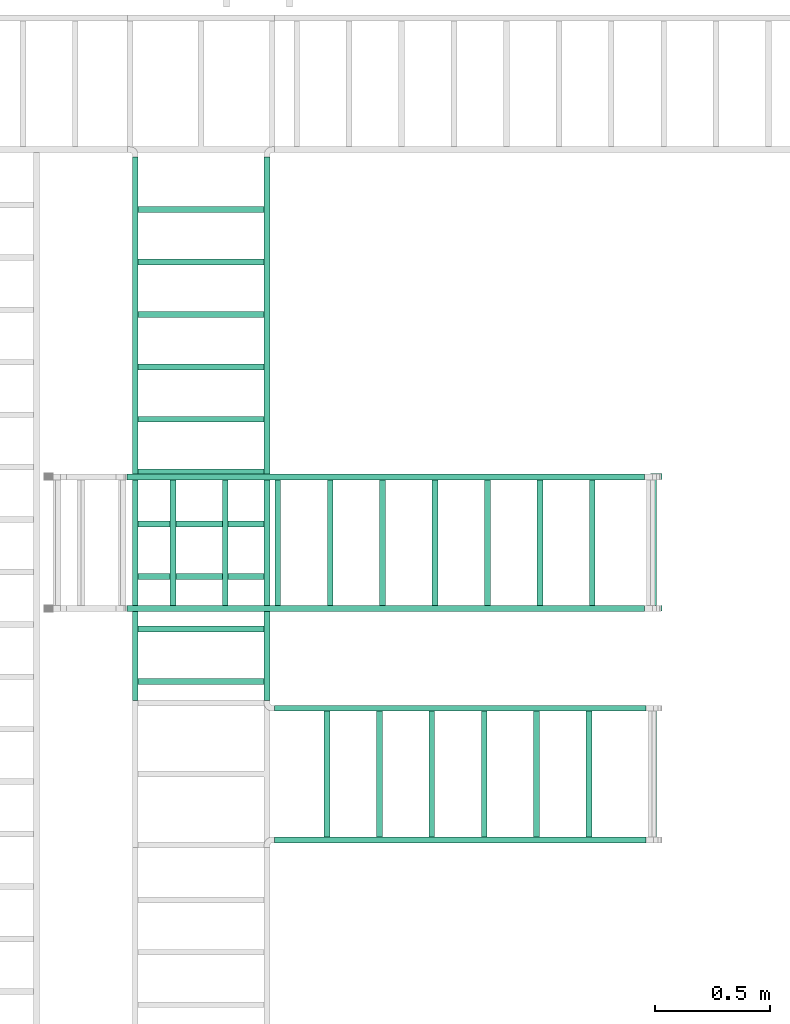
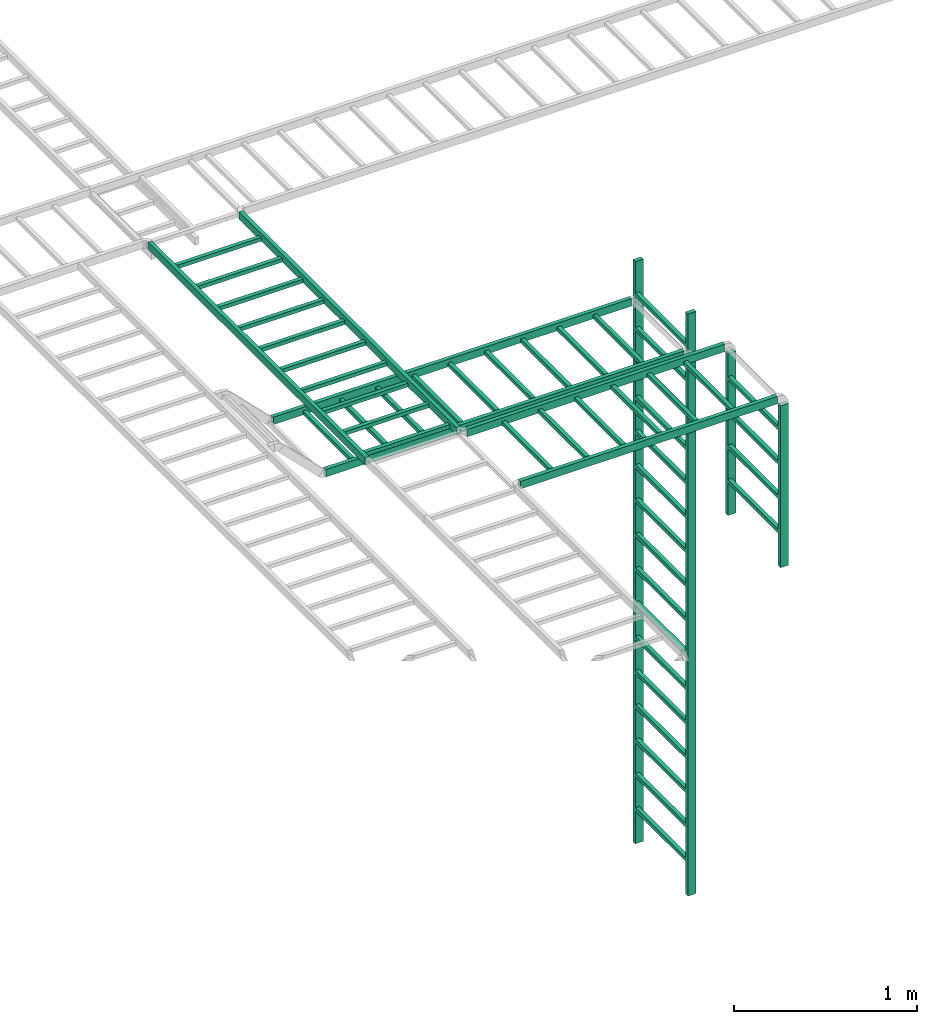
# One storey, part 4 of 6: 5 flow segments.
"""IFC2X3 building model written with IfcOpenShell, lengths in millimetres."""

import ifcopenshell
import ifcopenshell.guid

model = None  # the IFC model being written
_history = None  # IfcOwnerHistory: only IFC2X3 demands one
_inside = {}  # id of a spatial element -> (the spatial element, [elements in it])
_under = {}  # id of a project, library or spatial element -> (it, [spatial elements below it])
_declared = {}  # id of a project -> (the project, [libraries it declares])
_typed = {}  # id of a type object -> (the type object, [elements of that type])
_made_of = {}  # id of a material, layer set ... -> (it, [elements and type objects made of it])


def new_model(schema):
    """Start an empty IFC model of exactly this schema.

    Asked for "IFC4X3", IfcOpenShell would pick the latest addendum, in which some entities
    have other attributes; the version numbers below select the first issue.
    IFC2X3 requires an IfcOwnerHistory on every rooted entity: one is made here for all.
    """
    global model, _history
    if schema == "IFC4X3":
        model = ifcopenshell.file(schema_version=(4, 3, 0, 0))
    else:
        model = ifcopenshell.file(schema=schema)
    _inside.clear()
    _under.clear()
    _declared.clear()
    _typed.clear()
    _made_of.clear()
    _history = None
    if model.schema == "IFC2X3":
        org = make("IfcOrganization", Name="unknown")
        user = make(
            "IfcPersonAndOrganization",
            ThePerson=make("IfcPerson", FamilyName="unknown"),
            TheOrganization=org,
        )
        app = make(
            "IfcApplication",
            ApplicationDeveloper=org,
            Version="unknown",
            ApplicationFullName="unknown",
            ApplicationIdentifier="unknown",
        )
        _history = make(
            "IfcOwnerHistory",
            OwningUser=user,
            OwningApplication=app,
            ChangeAction="ADDED",
            CreationDate=0,
        )
    return model


def make(cls, **values):
    """One entity of the class cls with the attributes given. An attribute that is None is left unset."""
    return model.create_entity(
        cls, **{name: value for name, value in values.items() if value is not None}
    )


def entity(cls, *values):
    """Any entity or typed value of the class cls, its attributes in the order of the schema. None: left unset."""
    e = model.create_entity(cls)
    for i, value in enumerate(values):
        if value is not None:
            e[i] = value
    return e


def rooted(cls, **values):
    """An entity with a GlobalId (a new one), such as an element, a storey or a relation."""
    return make(cls, GlobalId=ifcopenshell.guid.new(), OwnerHistory=_history, **values)


def si_unit(unit_type, name, prefix=None):
    """IfcSIUnit, for example si_unit("LENGTHUNIT", "METRE", prefix="MILLI")."""
    return make("IfcSIUnit", UnitType=unit_type, Prefix=prefix, Name=name)


def converted_unit(unit_type, name, factor, base, dimensions=None, offset=None):
    """IfcConversionBasedUnit, such as the inch: factor (a typed value) times the base unit."""
    return make(
        "IfcConversionBasedUnit"
        if offset is None
        else "IfcConversionBasedUnitWithOffset",
        ConversionOffset=offset,
        Dimensions=None
        if dimensions is None
        else entity("IfcDimensionalExponents", *dimensions),
        UnitType=unit_type,
        Name=name,
        ConversionFactor=make(
            "IfcMeasureWithUnit", ValueComponent=factor, UnitComponent=base
        ),
    )


def derived_unit(unit_type, elements):
    """IfcDerivedUnit: a product of units, each with its exponent."""
    return make(
        "IfcDerivedUnit",
        Elements=[
            make("IfcDerivedUnitElement", Unit=unit, Exponent=power)
            for unit, power in elements
        ],
        UnitType=unit_type,
    )


def assignment(units):
    """IfcUnitAssignment: the units of a project."""
    return None if units is None else make("IfcUnitAssignment", Units=units)


def point(xyz):
    """IfcCartesianPoint."""
    return None if xyz is None else make("IfcCartesianPoint", Coordinates=xyz)


def direction(xyz):
    """IfcDirection."""
    return None if xyz is None else make("IfcDirection", DirectionRatios=xyz)


def frame(location, z_axis=None, x_axis=None):
    """IfcAxis2Placement3D, a coordinate frame: its origin and axes. An axis left out is left unset."""
    return make(
        "IfcAxis2Placement3D",
        Location=point(location),
        Axis=direction(z_axis),
        RefDirection=direction(x_axis),
    )


def origin_with_axes():
    """The frame at (0, 0, 0) with the z axis (0, 0, 1) and the x axis (1, 0, 0) written out."""
    return frame((0.0, 0.0, 0.0), z_axis=(0.0, 0.0, 1.0), x_axis=(1.0, 0.0, 0.0))


def place(relative_to, where):
    """IfcLocalPlacement: puts the frame where relative to a parent placement (None: the world)."""
    return make(
        "IfcLocalPlacement", PlacementRelTo=relative_to, RelativePlacement=where
    )


def context(
    kind, dimensions, precision=None, world=None, true_north=None, identifier=None
):
    """IfcGeometricRepresentationContext, for example the 3D "Model" context."""
    return make(
        "IfcGeometricRepresentationContext",
        ContextIdentifier=identifier,
        ContextType=kind,
        CoordinateSpaceDimension=dimensions,
        Precision=precision,
        WorldCoordinateSystem=world,
        TrueNorth=true_north,
    )


def subcontext(parent, identifier, kind, view, scale=None):
    """IfcGeometricRepresentationSubContext, for example "Body" below "Model"."""
    return make(
        "IfcGeometricRepresentationSubContext",
        ContextIdentifier=identifier,
        ContextType=kind,
        ParentContext=parent,
        TargetScale=scale,
        TargetView=view,
    )


def project(units=None, contexts=None):
    """IfcProject with its units and contexts."""
    return rooted(
        "IfcProject",
        Name="project",
        RepresentationContexts=contexts,
        UnitsInContext=assignment(units),
    )


def spatial(cls, under=None, at=None, **own):
    """A site, building, storey or space (cls), placed at a placement, below another one or the project."""
    s = rooted(cls, ObjectPlacement=at, **own)
    if under is not None:
        _under.setdefault(under.id(), (under, []))[1].append(s)
    return s


def faces_of(points, faces, orient=None, outer=None):
    """IfcFace entities. A face is a list of loops; a loop is a list of indices into points, from 0.

    orient and outer hold one flag for each loop. By default every Orientation is true, the
    first loop of a face is its IfcFaceOuterBound and the others are IfcFaceBound.
    """
    made = []
    for i, loops in enumerate(faces):
        bounds = []
        for j, loop in enumerate(loops):
            is_outer = j == 0 if outer is None else outer[i][j]
            bounds.append(
                make(
                    "IfcFaceOuterBound" if is_outer else "IfcFaceBound",
                    Bound=make("IfcPolyLoop", Polygon=[points[k] for k in loop]),
                    Orientation=True if orient is None else orient[i][j],
                )
            )
        made.append(make("IfcFace", Bounds=bounds))
    return made


def open_shell(faces, orient=None, outer=None):
    """The faces of one IfcOpenShell. surface_model builds it on its shared points."""
    return ("IfcOpenShell", faces, orient, outer)


def surface_model(cls, points, shells):
    """IfcFaceBasedSurfaceModel or IfcShellBasedSurfaceModel (cls): surfaces that need not close."""
    shared = [point(p) for p in points]
    made = [make(c, CfsFaces=faces_of(shared, fs, o, b)) for c, fs, o, b in shells]
    if cls == "IfcFaceBasedSurfaceModel":
        return make(cls, FbsmFaces=made)
    return make(cls, SbsmBoundary=made)


def shape(context_of_items, identifier, shape_type, items):
    """IfcShapeRepresentation: the items that make up one representation, for example the "Body"."""
    return make(
        "IfcShapeRepresentation",
        ContextOfItems=context_of_items,
        RepresentationIdentifier=identifier,
        RepresentationType=shape_type,
        Items=items,
    )


def source(mapping_origin, context_of_items, identifier, shape_type, items):
    """IfcRepresentationMap: a shape defined once, which mapped items show again and again."""
    return make(
        "IfcRepresentationMap",
        MappingOrigin=mapping_origin,
        MappedRepresentation=shape(context_of_items, identifier, shape_type, items),
    )


def transform(
    local_origin,
    x_axis=None,
    y_axis=None,
    z_axis=None,
    scale=None,
    scale2=None,
    scale3=None,
    uniform=True,
):
    """IfcCartesianTransformationOperator3D, or its non-uniform kind. x_axis, y_axis, z_axis: its Axis1, 2, 3."""
    if uniform:
        return make(
            "IfcCartesianTransformationOperator3D",
            Axis1=direction(x_axis),
            Axis2=direction(y_axis),
            LocalOrigin=point(local_origin),
            Scale=scale,
            Axis3=direction(z_axis),
        )
    return make(
        "IfcCartesianTransformationOperator3DnonUniform",
        Axis1=direction(x_axis),
        Axis2=direction(y_axis),
        LocalOrigin=point(local_origin),
        Scale=scale,
        Axis3=direction(z_axis),
        Scale2=scale2,
        Scale3=scale3,
    )


def mapped(mapping_source, mapping_target):
    """IfcMappedItem: shows the shape of a source again, moved by a transform."""
    return make(
        "IfcMappedItem", MappingSource=mapping_source, MappingTarget=mapping_target
    )


def made_of(thing, what):
    """Note that an element or type object is made of a material, layer set ...; save() writes the relation."""
    if what is not None:
        _made_of.setdefault(what.id(), (what, []))[1].append(thing)
    return thing


def type_object(cls, material=None, **own):
    """A type object (cls), such as IfcWallType, which elements share."""
    return made_of(rooted(cls, **own), material)


def element(
    cls,
    number,
    at=None,
    inside=None,
    cuts=None,
    type_object=None,
    material=None,
    context=None,
    identifier="Body",
    shape_type=None,
    held_by="IfcProductDefinitionShape",
    body=None,
    shapes=None,
    **own,
):
    """One element of the class cls, such as IfcWall. Its Tag is "e" and its number.

    at: its placement. inside: the storey or other place that contains it. cuts: it is an
    opening in that element (IfcRelVoidsElement). A single representation is given by context,
    identifier, shape_type and body (its items); several are given by shapes. held_by: the class
    of the entity that holds the representations. save() writes the other relations.
    """
    e = rooted(cls, Tag="e%d" % number, ObjectPlacement=at, **own)
    if body is not None:
        shapes = [shape(context, identifier, shape_type, body)]
    if shapes is not None:
        e.Representation = make(held_by, Representations=shapes)
    if inside is not None:
        _inside.setdefault(inside.id(), (inside, []))[1].append(e)
    if cuts is not None:
        rooted(
            "IfcRelVoidsElement", RelatingBuildingElement=cuts, RelatedOpeningElement=e
        )
    if type_object is not None:
        _typed.setdefault(type_object.id(), (type_object, []))[1].append(e)
    return made_of(e, material)


def aggregate(whole, parts):
    """IfcRelAggregates: a whole, such as a stair, and the parts it consists of."""
    return rooted("IfcRelAggregates", RelatingObject=whole, RelatedObjects=parts)


def save(model, path):
    """Write the relations noted so far, then the file.

    IfcRelAggregates (storeys below a building ...), IfcRelContainedInSpatialStructure (elements
    in a storey), IfcRelDefinesByType, IfcRelAssociatesMaterial and IfcRelDeclares: one each for
    every whole, place, type object, material and project.
    """
    for whole, parts in _under.values():
        aggregate(whole, parts)
    for where, things in _inside.values():
        rooted(
            "IfcRelContainedInSpatialStructure",
            RelatedElements=things,
            RelatingStructure=where,
        )
    for kind, things in _typed.values():
        rooted("IfcRelDefinesByType", RelatedObjects=things, RelatingType=kind)
    for what, things in _made_of.values():
        rooted("IfcRelAssociatesMaterial", RelatedObjects=things, RelatingMaterial=what)
    for by, libraries in _declared.values():
        rooted("IfcRelDeclares", RelatingContext=by, RelatedDefinitions=libraries)
    model.write(path)


model = new_model("IFC2X3")

# Units and contexts
model_context = context("Model", 3, precision=0.01, world=frame((0.0, 4.29681676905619e-09, 0.0)), true_north=direction((4.01073788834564e-13, 1.0)))
plan_context = context("Plan", 3, precision=0.01, world=frame((0.0, 4.29681676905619e-09, 0.0)), true_north=direction((4.01073788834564e-13, 1.0)))
body_context = subcontext(model_context, "Body", "Model", "MODEL_VIEW")
ifc_project = project(units=[converted_unit("PLANEANGLEUNIT", "DEGREE", entity("IfcPositiveLengthMeasure", 0.0174532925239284), si_unit("PLANEANGLEUNIT", "RADIAN"), dimensions=[0, 0, 0, 0, 0, 0, 0]), si_unit("AREAUNIT", "SQUARE_METRE"), si_unit("LENGTHUNIT", "METRE", prefix="MILLI"), si_unit("MASSUNIT", "GRAM", prefix="KILO"), si_unit("POWERUNIT", "WATT"), si_unit("PRESSUREUNIT", "PASCAL", prefix="KILO"), si_unit("FORCEUNIT", "NEWTON", prefix="KILO"), si_unit("ELECTRICVOLTAGEUNIT", "VOLT"), si_unit("ELECTRICCURRENTUNIT", "AMPERE"), si_unit("THERMODYNAMICTEMPERATUREUNIT", "DEGREE_CELSIUS"), si_unit("TIMEUNIT", "SECOND"), si_unit("VOLUMEUNIT", "CUBIC_METRE"), derived_unit("LINEARVELOCITYUNIT", [(si_unit("LENGTHUNIT", "METRE"), 1), (si_unit("TIMEUNIT", "SECOND"), -1)]), derived_unit("VOLUMETRICFLOWRATEUNIT", [(si_unit("VOLUMEUNIT", "CUBIC_METRE"), 1), (si_unit("TIMEUNIT", "SECOND"), -1)]), derived_unit("THERMALTRANSMITTANCEUNIT", [(si_unit("POWERUNIT", "WATT"), 1), (si_unit("THERMODYNAMICTEMPERATUREUNIT", "KELVIN"), -1), (si_unit("AREAUNIT", "SQUARE_METRE"), -1)]), derived_unit("SOUNDPRESSUREUNIT", [(si_unit("PRESSUREUNIT", "PASCAL"), 1)])], contexts=[model_context, plan_context])

# Site, building, storey
site_placement = place(None, frame((0.0, -4.29681676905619e-09, 0.0), z_axis=(0.0, 0.0, 1.0), x_axis=(1.0, 0.0, 0.0)))
site = spatial("IfcSite", under=ifc_project, at=site_placement, Name="ENGM", CompositionType="ELEMENT")
building_placement = place(site_placement, frame((0.0, 4.29681676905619e-09, 0.0), z_axis=(0.0, 0.0, 1.0), x_axis=(1.0, 0.0, 0.0)))
building = spatial("IfcBuilding", under=site, at=building_placement, Name="TS", CompositionType="ELEMENT")
storey_placement = place(building_placement, frame((0.0, 0.0, 210900.0), z_axis=(0.0, 0.0, 1.0), x_axis=(1.0, 0.0, 0.0)))
storey = spatial("IfcBuildingStorey", under=building, at=storey_placement, Name="Nivå F", CompositionType="ELEMENT", Elevation=210900.0)

# Flow segments
cable_carrier_segment_type = type_object("IfcCableCarrierSegmentType", Name="Kabelbro", PredefinedType="CABLELADDERSEGMENT")
shared_shape_1 = source(origin_with_axes(), body_context, "Body", "SurfaceModel", [
    surface_model("IfcShellBasedSurfaceModel", [(0.0, -274.60001, 25.0), (0.0, -300.0, -25.0), (0.0, -300.0, 25.0), (0.0, -274.60001, -25.0), (0.0, 300.0, 25.0), (0.0, 274.60001, -25.0), (0.0, 274.60001, 25.0), (0.0, 300.0, -25.0), (215.89999, -274.60001, 0.4), (215.89999, -274.60001, -25.0), (241.30001, -274.60001, -25.0), (241.30001, -274.60001, 0.4), (241.30001, 274.60001, -25.0), (215.89999, 274.60001, -25.0), (215.89999, 274.60001, 0.4), (241.30001, 274.60001, 0.4), (444.50001, -274.60001, 0.4), (444.50001, -274.60001, -25.0), (469.89999, -274.60001, -25.0), (469.89999, -274.60001, 0.4), (469.89999, 274.60001, -25.0), (444.50001, 274.60001, -25.0), (444.50001, 274.60001, 0.4), (469.89999, 274.60001, 0.4), (673.09998, -274.60001, 0.4), (673.09998, -274.60001, -25.0), (698.50002, -274.60001, -25.0), (698.50002, -274.60001, 0.4), (698.50002, 274.60001, -25.0), (673.09998, 274.60001, -25.0), (673.09998, 274.60001, 0.4), (698.50002, 274.60001, 0.4), (901.69998, -274.60001, 0.4), (901.69998, -274.60001, -25.0), (927.10002, -274.60001, -25.0), (927.10002, -274.60001, 0.4), (927.10002, 274.60001, -25.0), (901.69998, 274.60001, -25.0), (901.69998, 274.60001, 0.4), (927.10002, 274.60001, 0.4), (1130.29998, -274.60001, 0.4), (1130.29998, -274.60001, -25.0), (1155.70002, -274.60001, -25.0), (1155.70002, -274.60001, 0.4), (1155.70002, 274.60001, -25.0), (1130.29998, 274.60001, -25.0), (1130.29998, 274.60001, 0.4), (1155.70002, 274.60001, 0.4), (1358.90005, -274.60001, 0.4), (1358.90005, -274.60001, -25.0), (1384.29995, -274.60001, -25.0), (1384.29995, -274.60001, 0.4), (1384.29995, 274.60001, -25.0), (1358.90005, 274.60001, -25.0), (1358.90005, 274.60001, 0.4), (1384.29995, 274.60001, 0.4), (1619.99995, -300.0, 25.0), (1619.99995, -300.0, -25.0), (1619.99995, -274.60001, 25.0), (1619.99995, -274.60001, -25.0), (1619.99995, 274.60001, 25.0), (1619.99995, 274.60001, -25.0), (1619.99995, 300.0, 25.0), (1619.99995, 300.0, -25.0)], [open_shell([[[0, 1, 2]], [[1, 0, 3]], [[4, 5, 6]], [[5, 4, 7]], [[8, 9, 10]], [[10, 11, 8]], [[12, 13, 14]], [[14, 15, 12]], [[11, 10, 15]], [[12, 15, 10]], [[9, 8, 13]], [[14, 13, 8]], [[16, 17, 18]], [[18, 19, 16]], [[20, 21, 22]], [[22, 23, 20]], [[19, 18, 23]], [[20, 23, 18]], [[17, 16, 21]], [[22, 21, 16]], [[24, 25, 26]], [[26, 27, 24]], [[28, 29, 30]], [[30, 31, 28]], [[27, 26, 31]], [[28, 31, 26]], [[25, 24, 29]], [[30, 29, 24]], [[32, 33, 34]], [[34, 35, 32]], [[36, 37, 38]], [[38, 39, 36]], [[35, 34, 39]], [[36, 39, 34]], [[33, 32, 37]], [[38, 37, 32]], [[40, 41, 42]], [[42, 43, 40]], [[44, 45, 46]], [[46, 47, 44]], [[43, 42, 47]], [[44, 47, 42]], [[41, 40, 45]], [[46, 45, 40]], [[48, 49, 50]], [[50, 51, 48]], [[52, 53, 54]], [[54, 55, 52]], [[51, 50, 55]], [[52, 55, 50]], [[49, 48, 53]], [[54, 53, 48]], [[8, 11, 15]], [[15, 14, 8]], [[16, 19, 23]], [[23, 22, 16]], [[24, 27, 31]], [[31, 30, 24]], [[32, 35, 39]], [[39, 38, 32]], [[10, 9, 13]], [[13, 12, 10]], [[18, 17, 21]], [[21, 20, 18]], [[26, 25, 29]], [[29, 28, 26]], [[34, 33, 37]], [[37, 36, 34]], [[42, 41, 45]], [[45, 44, 42]], [[50, 49, 53]], [[53, 52, 50]], [[40, 43, 47]], [[47, 46, 40]], [[48, 51, 55]], [[55, 54, 48]], [[56, 57, 58]], [[59, 58, 57]], [[60, 61, 62]], [[63, 62, 61]], [[2, 1, 56]], [[57, 56, 1]], [[0, 2, 56]], [[56, 58, 0]], [[3, 0, 59]], [[58, 59, 0]], [[1, 3, 59]], [[59, 57, 1]], [[7, 4, 63]], [[62, 63, 4]], [[5, 7, 63]], [[63, 61, 5]], [[6, 5, 60]], [[61, 60, 5]], [[4, 6, 60]], [[60, 62, 4]]])]),
])
flow_segment_1_placement = place(storey_placement, frame((717487.4114, 439256.15201, 3925.0), z_axis=(0.0, 0.0, 1.0), x_axis=(1.0, 0.0, 0.0)))
element("IfcFlowSegment", 1, at=flow_segment_1_placement, inside=storey, type_object=cable_carrier_segment_type, Name="Kabelbro", context=body_context, shape_type="MappedRepresentation", body=[
    mapped(shared_shape_1, transform((0.0, 0.0, 0.0), scale=1.0)),
])
shared_shape_2 = source(origin_with_axes(), body_context, "Body", "SurfaceModel", [
    surface_model("IfcShellBasedSurfaceModel", [(241.30001, -274.60001, 0.4), (241.30001, -274.60001, -25.0), (241.30001, 274.60001, 0.4), (241.30001, 274.60001, -25.0), (215.89999, -274.60001, 0.4), (215.89999, 274.60001, 0.4), (215.89999, -274.60001, -25.0), (215.89999, 274.60001, -25.0), (469.89999, -274.60001, 0.4), (469.89999, -274.60001, -25.0), (469.89999, 274.60001, 0.4), (469.89999, 274.60001, -25.0), (444.50001, -274.60001, 0.4), (444.50001, 274.60001, 0.4), (444.50001, -274.60001, -25.0), (444.50001, 274.60001, -25.0), (698.50002, -274.60001, 0.4), (698.50002, -274.60001, -25.0), (698.50002, 274.60001, 0.4), (698.50002, 274.60001, -25.0), (673.09998, -274.60001, 0.4), (673.09998, 274.60001, 0.4), (673.09998, -274.60001, -25.0), (673.09998, 274.60001, -25.0), (927.10002, -274.60001, 0.4), (927.10002, -274.60001, -25.0), (927.10002, 274.60001, 0.4), (927.10002, 274.60001, -25.0), (901.69998, -274.60001, 0.4), (901.69998, 274.60001, 0.4), (901.69998, -274.60001, -25.0), (901.69998, 274.60001, -25.0), (1155.70002, -274.60001, 0.4), (1155.70002, -274.60001, -25.0), (1155.70002, 274.60001, 0.4), (1155.70002, 274.60001, -25.0), (1130.29998, -274.60001, 0.4), (1130.29998, 274.60001, 0.4), (1130.29998, -274.60001, -25.0), (1130.29998, 274.60001, -25.0), (1384.29995, -274.60001, 0.4), (1384.29995, -274.60001, -25.0), (1384.29995, 274.60001, 0.4), (1384.29995, 274.60001, -25.0), (1358.90005, -274.60001, 0.4), (1358.90005, 274.60001, 0.4), (1358.90005, -274.60001, -25.0), (1358.90005, 274.60001, -25.0), (1612.89995, -274.60001, 0.4), (1612.89995, -274.60001, -25.0), (1612.89995, 274.60001, 0.4), (1612.89995, 274.60001, -25.0), (1587.50005, -274.60001, 0.4), (1587.50005, 274.60001, 0.4), (1587.50005, -274.60001, -25.0), (1587.50005, 274.60001, -25.0), (1841.49995, -274.60001, 0.4), (1841.49995, -274.60001, -25.0), (1841.49995, 274.60001, 0.4), (1841.49995, 274.60001, -25.0), (1816.10005, -274.60001, 0.4), (1816.10005, 274.60001, 0.4), (1816.10005, -274.60001, -25.0), (1816.10005, 274.60001, -25.0), (2070.09995, -274.60001, 0.4), (2070.09995, -274.60001, -25.0), (2070.09995, 274.60001, 0.4), (2070.09995, 274.60001, -25.0), (2044.70005, -274.60001, 0.4), (2044.70005, 274.60001, 0.4), (2044.70005, -274.60001, -25.0), (2044.70005, 274.60001, -25.0), (2298.69995, -274.60001, 0.4), (2298.69995, -274.60001, -25.0), (2298.69995, 274.60001, 0.4), (2298.69995, 274.60001, -25.0), (2273.30005, -274.60001, 0.4), (2273.30005, 274.60001, 0.4), (2273.30005, -274.60001, -25.0), (2273.30005, 274.60001, -25.0), (0.0, -300.0, 25.0), (0.0, -274.60001, -25.0), (0.0, -300.0, -25.0), (0.0, -274.60001, 25.0), (0.0, 274.60001, 25.0), (0.0, 300.0, -25.0), (0.0, 274.60001, -25.0), (0.0, 300.0, 25.0), (2370.07496, -274.60001, 25.0), (2370.07496, -300.0, 25.0), (2370.07496, -274.60001, -25.0), (2370.07496, -300.0, -25.0), (2370.07496, 300.0, 25.0), (2370.07496, 274.60001, 25.0), (2370.07496, 300.0, -25.0), (2370.07496, 274.60001, -25.0)], [open_shell([[[0, 1, 2]], [[3, 2, 1]], [[4, 0, 5]], [[2, 5, 0]], [[6, 4, 7]], [[5, 7, 4]], [[1, 6, 3]], [[7, 3, 6]], [[8, 9, 10]], [[11, 10, 9]], [[12, 8, 13]], [[10, 13, 8]], [[14, 12, 15]], [[13, 15, 12]], [[9, 14, 11]], [[15, 11, 14]], [[16, 17, 18]], [[19, 18, 17]], [[20, 16, 21]], [[18, 21, 16]], [[22, 20, 23]], [[21, 23, 20]], [[17, 22, 19]], [[23, 19, 22]], [[24, 25, 26]], [[27, 26, 25]], [[28, 24, 29]], [[26, 29, 24]], [[30, 28, 31]], [[29, 31, 28]], [[25, 30, 27]], [[31, 27, 30]], [[32, 33, 34]], [[35, 34, 33]], [[36, 32, 37]], [[34, 37, 32]], [[38, 36, 39]], [[37, 39, 36]], [[33, 38, 35]], [[39, 35, 38]], [[40, 41, 42]], [[43, 42, 41]], [[44, 40, 45]], [[42, 45, 40]], [[46, 44, 47]], [[45, 47, 44]], [[41, 46, 43]], [[47, 43, 46]], [[48, 49, 50]], [[51, 50, 49]], [[52, 48, 53]], [[50, 53, 48]], [[54, 52, 55]], [[53, 55, 52]], [[49, 54, 51]], [[55, 51, 54]], [[56, 57, 58]], [[59, 58, 57]], [[60, 56, 61]], [[58, 61, 56]], [[62, 60, 63]], [[61, 63, 60]], [[57, 62, 59]], [[63, 59, 62]], [[64, 65, 66]], [[67, 66, 65]], [[68, 64, 69]], [[66, 69, 64]], [[70, 68, 71]], [[69, 71, 68]], [[65, 70, 67]], [[71, 67, 70]], [[72, 73, 74]], [[75, 74, 73]], [[76, 72, 77]], [[74, 77, 72]], [[78, 76, 79]], [[77, 79, 76]], [[73, 78, 75]], [[79, 75, 78]], [[80, 81, 82]], [[81, 80, 83]], [[84, 85, 86]], [[85, 84, 87]], [[6, 1, 0]], [[0, 4, 6]], [[2, 3, 7]], [[7, 5, 2]], [[14, 9, 8]], [[8, 12, 14]], [[10, 11, 15]], [[15, 13, 10]], [[22, 17, 16]], [[16, 20, 22]], [[18, 19, 23]], [[23, 21, 18]], [[30, 25, 24]], [[24, 28, 30]], [[26, 27, 31]], [[31, 29, 26]], [[38, 33, 32]], [[32, 36, 38]], [[34, 35, 39]], [[39, 37, 34]], [[46, 41, 40]], [[40, 44, 46]], [[42, 43, 47]], [[47, 45, 42]], [[54, 49, 48]], [[48, 52, 54]], [[50, 51, 55]], [[55, 53, 50]], [[62, 57, 56]], [[56, 60, 62]], [[58, 59, 63]], [[63, 61, 58]], [[70, 65, 64]], [[64, 68, 70]], [[66, 67, 71]], [[71, 69, 66]], [[78, 73, 72]], [[72, 76, 78]], [[74, 75, 79]], [[79, 77, 74]], [[88, 89, 90]], [[91, 90, 89]], [[92, 93, 94]], [[95, 94, 93]], [[80, 82, 89]], [[91, 89, 82]], [[83, 80, 88]], [[89, 88, 80]], [[81, 83, 90]], [[88, 90, 83]], [[82, 81, 91]], [[90, 91, 81]], [[85, 87, 94]], [[92, 94, 87]], [[86, 85, 95]], [[94, 95, 85]], [[84, 86, 93]], [[95, 93, 86]], [[87, 84, 92]], [[93, 92, 84]]])]),
])
flow_segment_2_placement = place(storey_placement, frame((717167.4114, 441946.22699, 3925.0), z_axis=(0.0, 0.0, 1.0), x_axis=(0.0, -1.0, 0.0)))
element("IfcFlowSegment", 2, at=flow_segment_2_placement, inside=storey, type_object=cable_carrier_segment_type, Name="Kabelbro", context=body_context, shape_type="MappedRepresentation", body=[
    mapped(shared_shape_2, transform((0.0, 0.0, 0.0), scale=1.0)),
])
shared_shape_3 = source(origin_with_axes(), body_context, "Body", "SurfaceModel", [
    surface_model("IfcShellBasedSurfaceModel", [(215.89999, -274.60001, 0.4), (241.30001, -274.60001, 0.4), (215.89999, 274.60001, 0.4), (241.30001, 274.60001, 0.4), (241.30001, -274.60001, -25.0), (215.89999, -274.60001, -25.0), (241.30001, 274.60001, -25.0), (215.89999, 274.60001, -25.0), (444.50001, -274.60001, 0.4), (469.89999, -274.60001, 0.4), (444.50001, 274.60001, 0.4), (469.89999, 274.60001, 0.4), (469.89999, -274.60001, -25.0), (444.50001, -274.60001, -25.0), (469.89999, 274.60001, -25.0), (444.50001, 274.60001, -25.0), (673.09998, -274.60001, 0.4), (698.50002, -274.60001, 0.4), (673.09998, 274.60001, 0.4), (698.50002, 274.60001, 0.4), (698.50002, -274.60001, -25.0), (673.09998, -274.60001, -25.0), (698.50002, 274.60001, -25.0), (673.09998, 274.60001, -25.0), (901.69998, -274.60001, 0.4), (927.10002, -274.60001, 0.4), (901.69998, 274.60001, 0.4), (927.10002, 274.60001, 0.4), (927.10002, -274.60001, -25.0), (901.69998, -274.60001, -25.0), (927.10002, 274.60001, -25.0), (901.69998, 274.60001, -25.0), (0.0, -300.0, 25.0), (0.0, -274.60001, -25.0), (0.0, -300.0, -25.0), (0.0, -274.60001, 25.0), (0.0, 274.60001, 25.0), (0.0, 300.0, -25.0), (0.0, 274.60001, -25.0), (0.0, 300.0, 25.0), (1079.99999, -300.0, -25.0), (1079.99999, -274.60001, -25.0), (1079.99999, -300.0, 25.0), (1079.99999, -274.60001, 25.0), (1079.99999, 274.60001, -25.0), (1079.99999, 300.0, -25.0), (1079.99999, 274.60001, 25.0), (1079.99999, 300.0, 25.0)], [open_shell([[[0, 1, 2]], [[3, 2, 1]], [[4, 5, 6]], [[7, 6, 5]], [[8, 9, 10]], [[11, 10, 9]], [[12, 13, 14]], [[15, 14, 13]], [[16, 17, 18]], [[19, 18, 17]], [[20, 21, 22]], [[23, 22, 21]], [[24, 25, 26]], [[27, 26, 25]], [[28, 29, 30]], [[31, 30, 29]], [[32, 33, 34]], [[33, 32, 35]], [[36, 37, 38]], [[37, 36, 39]], [[5, 4, 1]], [[1, 0, 5]], [[3, 6, 7]], [[7, 2, 3]], [[13, 12, 9]], [[9, 8, 13]], [[11, 14, 15]], [[15, 10, 11]], [[21, 20, 17]], [[17, 16, 21]], [[19, 22, 23]], [[23, 18, 19]], [[29, 28, 25]], [[25, 24, 29]], [[27, 30, 31]], [[31, 26, 27]], [[1, 4, 6]], [[6, 3, 1]], [[5, 0, 2]], [[2, 7, 5]], [[9, 12, 14]], [[14, 11, 9]], [[13, 8, 10]], [[10, 15, 13]], [[17, 20, 22]], [[22, 19, 17]], [[21, 16, 18]], [[18, 23, 21]], [[25, 28, 30]], [[30, 27, 25]], [[29, 24, 26]], [[26, 31, 29]], [[40, 41, 42]], [[43, 42, 41]], [[44, 45, 46]], [[47, 46, 45]], [[32, 34, 42]], [[40, 42, 34]], [[35, 32, 43]], [[42, 43, 32]], [[33, 35, 41]], [[43, 41, 35]], [[34, 33, 40]], [[41, 40, 33]], [[37, 39, 45]], [[47, 45, 39]], [[38, 37, 44]], [[45, 44, 37]], [[36, 38, 46]], [[44, 46, 38]], [[39, 36, 47]], [[46, 47, 36]]])]),
])
flow_segment_3_placement = place(storey_placement, frame((719152.4114, 439256.15201, 2800.0), z_axis=(1.0, 0.0, 0.0), x_axis=(0.0, 0.0, 1.0)))
element("IfcFlowSegment", 3, at=flow_segment_3_placement, inside=storey, type_object=cable_carrier_segment_type, Name="Kabelbro", context=body_context, shape_type="MappedRepresentation", body=[
    mapped(shared_shape_3, transform((0.0, 0.0, 0.0), scale=1.0)),
])
shared_shape_4 = source(origin_with_axes(), body_context, "Body", "SurfaceModel", [
    surface_model("IfcShellBasedSurfaceModel", [(0.0, -274.60001, 25.0), (0.0, -300.0, -25.0), (0.0, -300.0, 25.0), (0.0, -274.60001, -25.0), (0.0, 300.0, 25.0), (0.0, 274.60001, -25.0), (0.0, 274.60001, 25.0), (0.0, 300.0, -25.0), (215.89999, -274.60001, 0.4), (215.89999, -274.60001, -25.0), (241.30001, -274.60001, -25.0), (241.30001, -274.60001, 0.4), (241.30001, 274.60001, -25.0), (215.89999, 274.60001, -25.0), (215.89999, 274.60001, 0.4), (241.30001, 274.60001, 0.4), (444.50001, -274.60001, 0.4), (444.50001, -274.60001, -25.0), (469.89999, -274.60001, -25.0), (469.89999, -274.60001, 0.4), (469.89999, 274.60001, -25.0), (444.50001, 274.60001, -25.0), (444.50001, 274.60001, 0.4), (469.89999, 274.60001, 0.4), (673.09998, -274.60001, 0.4), (673.09998, -274.60001, -25.0), (698.50002, -274.60001, -25.0), (698.50002, -274.60001, 0.4), (698.50002, 274.60001, -25.0), (673.09998, 274.60001, -25.0), (673.09998, 274.60001, 0.4), (698.50002, 274.60001, 0.4), (901.69998, -274.60001, 0.4), (901.69998, -274.60001, -25.0), (927.10002, -274.60001, -25.0), (927.10002, -274.60001, 0.4), (927.10002, 274.60001, -25.0), (901.69998, 274.60001, -25.0), (901.69998, 274.60001, 0.4), (927.10002, 274.60001, 0.4), (1130.29998, -274.60001, 0.4), (1130.29998, -274.60001, -25.0), (1155.70002, -274.60001, -25.0), (1155.70002, -274.60001, 0.4), (1155.70002, 274.60001, -25.0), (1130.29998, 274.60001, -25.0), (1130.29998, 274.60001, 0.4), (1155.70002, 274.60001, 0.4), (1358.90005, -274.60001, 0.4), (1358.90005, -274.60001, -25.0), (1384.29995, -274.60001, -25.0), (1384.29995, -274.60001, 0.4), (1384.29995, 274.60001, -25.0), (1358.90005, 274.60001, -25.0), (1358.90005, 274.60001, 0.4), (1384.29995, 274.60001, 0.4), (1587.50005, -274.60001, 0.4), (1587.50005, -274.60001, -25.0), (1612.89995, -274.60001, -25.0), (1612.89995, -274.60001, 0.4), (1612.89995, 274.60001, -25.0), (1587.50005, 274.60001, -25.0), (1587.50005, 274.60001, 0.4), (1612.89995, 274.60001, 0.4), (1816.10005, -274.60001, 0.4), (1816.10005, -274.60001, -25.0), (1841.49995, -274.60001, -25.0), (1841.49995, -274.60001, 0.4), (1841.49995, 274.60001, -25.0), (1816.10005, 274.60001, -25.0), (1816.10005, 274.60001, 0.4), (1841.49995, 274.60001, 0.4), (2044.70005, -274.60001, 0.4), (2044.70005, -274.60001, -25.0), (2070.09995, -274.60001, -25.0), (2070.09995, -274.60001, 0.4), (2070.09995, 274.60001, -25.0), (2044.70005, 274.60001, -25.0), (2044.70005, 274.60001, 0.4), (2070.09995, 274.60001, 0.4), (2257.50247, -300.0, 25.0), (2257.50247, -300.0, -25.0), (2257.50247, -274.60001, 25.0), (2257.50247, -274.60001, -25.0), (2257.50247, 274.60001, 25.0), (2257.50247, 274.60001, -25.0), (2257.50247, 300.0, 25.0), (2257.50247, 300.0, -25.0)], [open_shell([[[0, 1, 2]], [[1, 0, 3]], [[4, 5, 6]], [[5, 4, 7]], [[8, 9, 10]], [[10, 11, 8]], [[12, 13, 14]], [[14, 15, 12]], [[11, 10, 15]], [[12, 15, 10]], [[9, 8, 13]], [[14, 13, 8]], [[16, 17, 18]], [[18, 19, 16]], [[20, 21, 22]], [[22, 23, 20]], [[19, 18, 23]], [[20, 23, 18]], [[17, 16, 21]], [[22, 21, 16]], [[24, 25, 26]], [[26, 27, 24]], [[28, 29, 30]], [[30, 31, 28]], [[27, 26, 31]], [[28, 31, 26]], [[25, 24, 29]], [[30, 29, 24]], [[32, 33, 34]], [[34, 35, 32]], [[36, 37, 38]], [[38, 39, 36]], [[35, 34, 39]], [[36, 39, 34]], [[33, 32, 37]], [[38, 37, 32]], [[40, 41, 42]], [[42, 43, 40]], [[44, 45, 46]], [[46, 47, 44]], [[43, 42, 47]], [[44, 47, 42]], [[41, 40, 45]], [[46, 45, 40]], [[48, 49, 50]], [[50, 51, 48]], [[52, 53, 54]], [[54, 55, 52]], [[51, 50, 55]], [[52, 55, 50]], [[49, 48, 53]], [[54, 53, 48]], [[56, 57, 58]], [[58, 59, 56]], [[60, 61, 62]], [[62, 63, 60]], [[59, 58, 63]], [[60, 63, 58]], [[57, 56, 61]], [[62, 61, 56]], [[64, 65, 66]], [[66, 67, 64]], [[68, 69, 70]], [[70, 71, 68]], [[67, 66, 71]], [[68, 71, 66]], [[65, 64, 69]], [[70, 69, 64]], [[72, 73, 74]], [[74, 75, 72]], [[76, 77, 78]], [[78, 79, 76]], [[75, 74, 79]], [[76, 79, 74]], [[73, 72, 77]], [[78, 77, 72]], [[8, 11, 15]], [[15, 14, 8]], [[16, 19, 23]], [[23, 22, 16]], [[24, 27, 31]], [[31, 30, 24]], [[32, 35, 39]], [[39, 38, 32]], [[10, 9, 13]], [[13, 12, 10]], [[18, 17, 21]], [[21, 20, 18]], [[26, 25, 29]], [[29, 28, 26]], [[34, 33, 37]], [[37, 36, 34]], [[42, 41, 45]], [[45, 44, 42]], [[50, 49, 53]], [[53, 52, 50]], [[58, 57, 61]], [[61, 60, 58]], [[66, 65, 69]], [[69, 68, 66]], [[74, 73, 77]], [[77, 76, 74]], [[40, 43, 47]], [[47, 46, 40]], [[48, 51, 55]], [[55, 54, 48]], [[56, 59, 63]], [[63, 62, 56]], [[64, 67, 71]], [[71, 70, 64]], [[72, 75, 79]], [[79, 78, 72]], [[80, 81, 82]], [[83, 82, 81]], [[84, 85, 86]], [[87, 86, 85]], [[2, 1, 80]], [[81, 80, 1]], [[0, 2, 82]], [[80, 82, 2]], [[3, 0, 83]], [[82, 83, 0]], [[1, 3, 81]], [[83, 81, 3]], [[7, 4, 87]], [[86, 87, 4]], [[5, 7, 85]], [[87, 85, 7]], [[6, 5, 84]], [[85, 84, 5]], [[4, 6, 86]], [[84, 86, 6]]])]),
])
flow_segment_4_placement = place(storey_placement, frame((719101.81323, 440264.80936, 3618.23548999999), z_axis=(0.0, 0.0, 1.0), x_axis=(-1.0, 0.0, 0.0)))
element("IfcFlowSegment", 4, at=flow_segment_4_placement, inside=storey, type_object=cable_carrier_segment_type, Name="Kabelbro", context=body_context, shape_type="MappedRepresentation", body=[
    mapped(shared_shape_4, transform((0.0, 0.0, 0.0), scale=1.0)),
])
shared_shape_5 = source(origin_with_axes(), body_context, "Body", "SurfaceModel", [
    surface_model("IfcShellBasedSurfaceModel", [(215.89999, -274.60001, 0.4), (241.30001, -274.60001, 0.4), (215.89999, 274.60001, 0.4), (241.30001, 274.60001, 0.4), (241.30001, -274.60001, -25.0), (215.89999, -274.60001, -25.0), (241.30001, 274.60001, -25.0), (215.89999, 274.60001, -25.0), (444.50001, -274.60001, 0.4), (469.89999, -274.60001, 0.4), (444.50001, 274.60001, 0.4), (469.89999, 274.60001, 0.4), (469.89999, -274.60001, -25.0), (444.50001, -274.60001, -25.0), (469.89999, 274.60001, -25.0), (444.50001, 274.60001, -25.0), (673.09998, -274.60001, 0.4), (698.50002, -274.60001, 0.4), (673.09998, 274.60001, 0.4), (698.50002, 274.60001, 0.4), (698.50002, -274.60001, -25.0), (673.09998, -274.60001, -25.0), (698.50002, 274.60001, -25.0), (673.09998, 274.60001, -25.0), (901.69998, -274.60001, 0.4), (927.10002, -274.60001, 0.4), (901.69998, 274.60001, 0.4), (927.10002, 274.60001, 0.4), (927.10002, -274.60001, -25.0), (901.69998, -274.60001, -25.0), (927.10002, 274.60001, -25.0), (901.69998, 274.60001, -25.0), (1130.29998, -274.60001, 0.4), (1155.70002, -274.60001, 0.4), (1130.29998, 274.60001, 0.4), (1155.70002, 274.60001, 0.4), (1155.70002, -274.60001, -25.0), (1130.29998, -274.60001, -25.0), (1155.70002, 274.60001, -25.0), (1130.29998, 274.60001, -25.0), (1358.90005, -274.60001, 0.4), (1384.29995, -274.60001, 0.4), (1358.90005, 274.60001, 0.4), (1384.29995, 274.60001, 0.4), (1384.29995, -274.60001, -25.0), (1358.90005, -274.60001, -25.0), (1384.29995, 274.60001, -25.0), (1358.90005, 274.60001, -25.0), (1587.50005, -274.60001, 0.4), (1612.89995, -274.60001, 0.4), (1587.50005, 274.60001, 0.4), (1612.89995, 274.60001, 0.4), (1612.89995, -274.60001, -25.0), (1587.50005, -274.60001, -25.0), (1612.89995, 274.60001, -25.0), (1587.50005, 274.60001, -25.0), (1816.10005, -274.60001, 0.4), (1841.49995, -274.60001, 0.4), (1816.10005, 274.60001, 0.4), (1841.49995, 274.60001, 0.4), (1841.49995, -274.60001, -25.0), (1816.10005, -274.60001, -25.0), (1841.49995, 274.60001, -25.0), (1816.10005, 274.60001, -25.0), (2044.70005, -274.60001, 0.4), (2070.09995, -274.60001, 0.4), (2044.70005, 274.60001, 0.4), (2070.09995, 274.60001, 0.4), (2070.09995, -274.60001, -25.0), (2044.70005, -274.60001, -25.0), (2070.09995, 274.60001, -25.0), (2044.70005, 274.60001, -25.0), (2273.30005, -274.60001, 0.4), (2298.69995, -274.60001, 0.4), (2273.30005, 274.60001, 0.4), (2298.69995, 274.60001, 0.4), (2298.69995, -274.60001, -25.0), (2273.30005, -274.60001, -25.0), (2298.69995, 274.60001, -25.0), (2273.30005, 274.60001, -25.0), (2501.8999, -274.60001, 0.4), (2527.3001, -274.60001, 0.4), (2501.8999, 274.60001, 0.4), (2527.3001, 274.60001, 0.4), (2527.3001, -274.60001, -25.0), (2501.8999, -274.60001, -25.0), (2527.3001, 274.60001, -25.0), (2501.8999, 274.60001, -25.0), (2730.4999, -274.60001, 0.4), (2755.9001, -274.60001, 0.4), (2730.4999, 274.60001, 0.4), (2755.9001, 274.60001, 0.4), (2755.9001, -274.60001, -25.0), (2730.4999, -274.60001, -25.0), (2755.9001, 274.60001, -25.0), (2730.4999, 274.60001, -25.0), (2959.0999, -274.60001, 0.4), (2984.5001, -274.60001, 0.4), (2959.0999, 274.60001, 0.4), (2984.5001, 274.60001, 0.4), (2984.5001, -274.60001, -25.0), (2959.0999, -274.60001, -25.0), (2984.5001, 274.60001, -25.0), (2959.0999, 274.60001, -25.0), (3187.6999, -274.60001, 0.4), (3213.1001, -274.60001, 0.4), (3187.6999, 274.60001, 0.4), (3213.1001, 274.60001, 0.4), (3213.1001, -274.60001, -25.0), (3187.6999, -274.60001, -25.0), (3213.1001, 274.60001, -25.0), (3187.6999, 274.60001, -25.0), (3416.2999, -274.60001, 0.4), (3441.7001, -274.60001, 0.4), (3416.2999, 274.60001, 0.4), (3441.7001, 274.60001, 0.4), (3441.7001, -274.60001, -25.0), (3416.2999, -274.60001, -25.0), (3441.7001, 274.60001, -25.0), (3416.2999, 274.60001, -25.0), (3644.8999, -274.60001, 0.4), (3670.3001, -274.60001, 0.4), (3644.8999, 274.60001, 0.4), (3670.3001, 274.60001, 0.4), (3670.3001, -274.60001, -25.0), (3644.8999, -274.60001, -25.0), (3670.3001, 274.60001, -25.0), (3644.8999, 274.60001, -25.0), (0.0, -300.0, 25.0), (0.0, -274.60001, -25.0), (0.0, -300.0, -25.0), (0.0, -274.60001, 25.0), (0.0, 274.60001, 25.0), (0.0, 300.0, -25.0), (0.0, 274.60001, -25.0), (0.0, 300.0, 25.0), (3880.00009, -300.0, -25.0), (3880.00009, -274.60001, -25.0), (3880.00009, -300.0, 25.0), (3880.00009, -274.60001, 25.0), (3880.00009, 274.60001, -25.0), (3880.00009, 300.0, -25.0), (3880.00009, 274.60001, 25.0), (3880.00009, 300.0, 25.0)], [open_shell([[[0, 1, 2]], [[3, 2, 1]], [[4, 5, 6]], [[7, 6, 5]], [[8, 9, 10]], [[11, 10, 9]], [[12, 13, 14]], [[15, 14, 13]], [[16, 17, 18]], [[19, 18, 17]], [[20, 21, 22]], [[23, 22, 21]], [[24, 25, 26]], [[27, 26, 25]], [[28, 29, 30]], [[31, 30, 29]], [[32, 33, 34]], [[35, 34, 33]], [[36, 37, 38]], [[39, 38, 37]], [[40, 41, 42]], [[43, 42, 41]], [[44, 45, 46]], [[47, 46, 45]], [[48, 49, 50]], [[51, 50, 49]], [[52, 53, 54]], [[55, 54, 53]], [[56, 57, 58]], [[59, 58, 57]], [[60, 61, 62]], [[63, 62, 61]], [[64, 65, 66]], [[67, 66, 65]], [[68, 69, 70]], [[71, 70, 69]], [[72, 73, 74]], [[75, 74, 73]], [[76, 77, 78]], [[79, 78, 77]], [[80, 81, 82]], [[83, 82, 81]], [[84, 85, 86]], [[87, 86, 85]], [[88, 89, 90]], [[91, 90, 89]], [[92, 93, 94]], [[95, 94, 93]], [[96, 97, 98]], [[99, 98, 97]], [[100, 101, 102]], [[103, 102, 101]], [[104, 105, 106]], [[107, 106, 105]], [[108, 109, 110]], [[111, 110, 109]], [[112, 113, 114]], [[115, 114, 113]], [[116, 117, 118]], [[119, 118, 117]], [[120, 121, 122]], [[123, 122, 121]], [[124, 125, 126]], [[127, 126, 125]], [[128, 129, 130]], [[129, 128, 131]], [[132, 133, 134]], [[133, 132, 135]], [[5, 4, 1]], [[1, 0, 5]], [[3, 6, 7]], [[7, 2, 3]], [[13, 12, 9]], [[9, 8, 13]], [[11, 14, 15]], [[15, 10, 11]], [[21, 20, 17]], [[17, 16, 21]], [[19, 22, 23]], [[23, 18, 19]], [[29, 28, 25]], [[25, 24, 29]], [[27, 30, 31]], [[31, 26, 27]], [[37, 36, 33]], [[33, 32, 37]], [[35, 38, 39]], [[39, 34, 35]], [[45, 44, 41]], [[41, 40, 45]], [[43, 46, 47]], [[47, 42, 43]], [[53, 52, 49]], [[49, 48, 53]], [[51, 54, 55]], [[55, 50, 51]], [[61, 60, 57]], [[57, 56, 61]], [[59, 62, 63]], [[63, 58, 59]], [[69, 68, 65]], [[65, 64, 69]], [[67, 70, 71]], [[71, 66, 67]], [[77, 76, 73]], [[73, 72, 77]], [[75, 78, 79]], [[79, 74, 75]], [[85, 84, 81]], [[81, 80, 85]], [[83, 86, 87]], [[87, 82, 83]], [[93, 92, 89]], [[89, 88, 93]], [[91, 94, 95]], [[95, 90, 91]], [[101, 100, 97]], [[97, 96, 101]], [[99, 102, 103]], [[103, 98, 99]], [[109, 108, 105]], [[105, 104, 109]], [[107, 110, 111]], [[111, 106, 107]], [[117, 116, 113]], [[113, 112, 117]], [[115, 118, 119]], [[119, 114, 115]], [[125, 124, 121]], [[121, 120, 125]], [[123, 126, 127]], [[127, 122, 123]], [[1, 4, 6]], [[6, 3, 1]], [[5, 0, 2]], [[2, 7, 5]], [[9, 12, 14]], [[14, 11, 9]], [[13, 8, 10]], [[10, 15, 13]], [[17, 20, 22]], [[22, 19, 17]], [[21, 16, 18]], [[18, 23, 21]], [[25, 28, 30]], [[30, 27, 25]], [[29, 24, 26]], [[26, 31, 29]], [[33, 36, 38]], [[38, 35, 33]], [[37, 32, 34]], [[34, 39, 37]], [[41, 44, 46]], [[46, 43, 41]], [[45, 40, 42]], [[42, 47, 45]], [[49, 52, 54]], [[54, 51, 49]], [[53, 48, 50]], [[50, 55, 53]], [[57, 60, 62]], [[62, 59, 57]], [[61, 56, 58]], [[58, 63, 61]], [[65, 68, 70]], [[70, 67, 65]], [[69, 64, 66]], [[66, 71, 69]], [[73, 76, 78]], [[78, 75, 73]], [[77, 72, 74]], [[74, 79, 77]], [[81, 84, 86]], [[86, 83, 81]], [[85, 80, 82]], [[82, 87, 85]], [[89, 92, 94]], [[94, 91, 89]], [[93, 88, 90]], [[90, 95, 93]], [[97, 100, 102]], [[102, 99, 97]], [[101, 96, 98]], [[98, 103, 101]], [[105, 108, 110]], [[110, 107, 105]], [[109, 104, 106]], [[106, 111, 109]], [[113, 116, 118]], [[118, 115, 113]], [[117, 112, 114]], [[114, 119, 117]], [[136, 137, 138]], [[139, 138, 137]], [[140, 141, 142]], [[143, 142, 141]], [[128, 130, 136]], [[136, 138, 128]], [[131, 128, 139]], [[138, 139, 128]], [[129, 131, 139]], [[139, 137, 129]], [[130, 129, 136]], [[137, 136, 129]], [[133, 135, 143]], [[143, 141, 133]], [[134, 133, 140]], [[141, 140, 133]], [[132, 134, 140]], [[140, 142, 132]], [[135, 132, 143]], [[142, 143, 132]], [[121, 124, 126]], [[126, 123, 121]], [[125, 120, 122]], [[122, 127, 125]]])]),
])
flow_segment_5_placement = place(storey_placement, frame((719152.4114, 440266.15201, 0.0), z_axis=(1.0, 0.0, 0.0), x_axis=(0.0, 0.0, 1.0)))
element("IfcFlowSegment", 5, at=flow_segment_5_placement, inside=storey, type_object=cable_carrier_segment_type, Name="Kabelbro", context=body_context, shape_type="MappedRepresentation", body=[
    mapped(shared_shape_5, transform((0.0, 0.0, 0.0), scale=1.0)),
])

save(model, "model.ifc")
